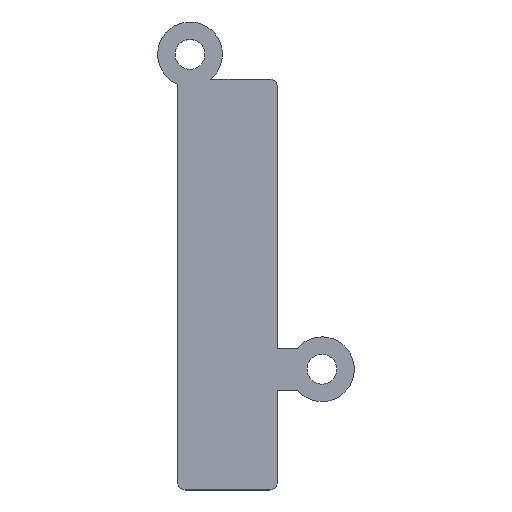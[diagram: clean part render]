
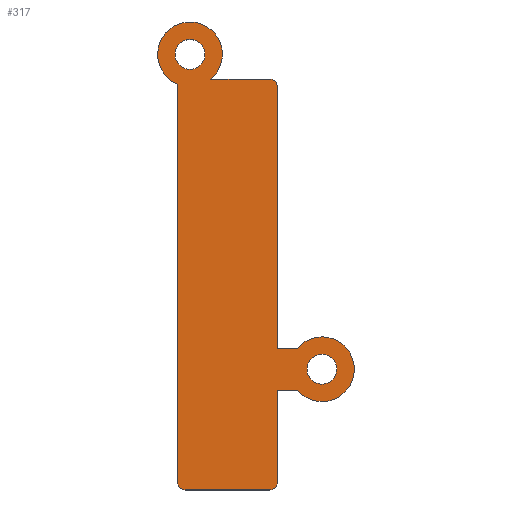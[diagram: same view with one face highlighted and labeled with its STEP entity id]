
A CAD part, top view. The second image highlights one B-rep face of the part: STEP entity #317.
In plain terms, the highlighted planar face has unit normal (0, 0, 1).
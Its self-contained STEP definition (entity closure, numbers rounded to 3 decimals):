
#17=FACE_BOUND('',#67,.T.);
#18=FACE_BOUND('',#68,.T.);
#20=CIRCLE('',#347,0.6);
#22=CIRCLE('',#350,0.6);
#29=CIRCLE('',#359,0.6);
#30=CIRCLE('',#360,2.6);
#31=CIRCLE('',#361,0.6);
#32=CIRCLE('',#362,2.6);
#33=CIRCLE('',#363,1.2);
#34=CIRCLE('',#364,1.2);
#47=FACE_OUTER_BOUND('',#66,.T.);
#66=EDGE_LOOP('',(#241,#242,#243,#244,#245,#246,#247,#248,#249,#250,#251,
#252,#253));
#67=EDGE_LOOP('',(#254));
#68=EDGE_LOOP('',(#255));
#82=LINE('',#480,#111);
#93=LINE('',#522,#122);
#94=LINE('',#526,#123);
#95=LINE('',#528,#124);
#96=LINE('',#532,#125);
#97=LINE('',#534,#126);
#98=LINE('',#538,#127);
#111=VECTOR('',#382,1.);
#122=VECTOR('',#421,1.);
#123=VECTOR('',#424,1.);
#124=VECTOR('',#425,1.);
#125=VECTOR('',#428,1.);
#126=VECTOR('',#429,1.);
#127=VECTOR('',#432,1.);
#140=VERTEX_POINT('',#477);
#141=VERTEX_POINT('',#479);
#144=VERTEX_POINT('',#487);
#146=VERTEX_POINT('',#493);
#158=VERTEX_POINT('',#521);
#159=VERTEX_POINT('',#523);
#160=VERTEX_POINT('',#525);
#161=VERTEX_POINT('',#527);
#162=VERTEX_POINT('',#529);
#163=VERTEX_POINT('',#531);
#164=VERTEX_POINT('',#533);
#165=VERTEX_POINT('',#535);
#166=VERTEX_POINT('',#537);
#167=VERTEX_POINT('',#540);
#168=VERTEX_POINT('',#542);
#170=EDGE_CURVE('',#140,#141,#82,.T.);
#175=EDGE_CURVE('',#140,#144,#20,.T.);
#177=EDGE_CURVE('',#146,#141,#22,.T.);
#191=EDGE_CURVE('',#144,#158,#93,.T.);
#192=EDGE_CURVE('',#158,#159,#29,.T.);
#193=EDGE_CURVE('',#159,#160,#94,.T.);
#194=EDGE_CURVE('',#160,#161,#95,.T.);
#195=EDGE_CURVE('',#161,#162,#30,.T.);
#196=EDGE_CURVE('',#163,#162,#96,.T.);
#197=EDGE_CURVE('',#163,#164,#97,.T.);
#198=EDGE_CURVE('',#164,#165,#31,.T.);
#199=EDGE_CURVE('',#166,#165,#98,.T.);
#200=EDGE_CURVE('',#166,#146,#32,.T.);
#201=EDGE_CURVE('',#167,#167,#33,.T.);
#202=EDGE_CURVE('',#168,#168,#34,.T.);
#241=ORIENTED_EDGE('',*,*,#170,.F.);
#242=ORIENTED_EDGE('',*,*,#175,.T.);
#243=ORIENTED_EDGE('',*,*,#191,.T.);
#244=ORIENTED_EDGE('',*,*,#192,.T.);
#245=ORIENTED_EDGE('',*,*,#193,.T.);
#246=ORIENTED_EDGE('',*,*,#194,.T.);
#247=ORIENTED_EDGE('',*,*,#195,.T.);
#248=ORIENTED_EDGE('',*,*,#196,.F.);
#249=ORIENTED_EDGE('',*,*,#197,.T.);
#250=ORIENTED_EDGE('',*,*,#198,.T.);
#251=ORIENTED_EDGE('',*,*,#199,.F.);
#252=ORIENTED_EDGE('',*,*,#200,.T.);
#253=ORIENTED_EDGE('',*,*,#177,.T.);
#254=ORIENTED_EDGE('',*,*,#201,.F.);
#255=ORIENTED_EDGE('',*,*,#202,.F.);
#306=PLANE('',#358);
#317=ADVANCED_FACE('',(#47,#17,#18),#306,.T.);
#347=AXIS2_PLACEMENT_3D('',#489,#390,#391);
#350=AXIS2_PLACEMENT_3D('',#494,#396,#397);
#358=AXIS2_PLACEMENT_3D('',#520,#419,#420);
#359=AXIS2_PLACEMENT_3D('',#524,#422,#423);
#360=AXIS2_PLACEMENT_3D('',#530,#426,#427);
#361=AXIS2_PLACEMENT_3D('',#536,#430,#431);
#362=AXIS2_PLACEMENT_3D('',#539,#433,#434);
#363=AXIS2_PLACEMENT_3D('',#541,#435,#436);
#364=AXIS2_PLACEMENT_3D('',#543,#437,#438);
#382=DIRECTION('',(0.,1.,0.));
#390=DIRECTION('center_axis',(0.,0.,1.));
#391=DIRECTION('ref_axis',(1.,0.,0.));
#396=DIRECTION('center_axis',(0.,0.,1.));
#397=DIRECTION('ref_axis',(1.,0.,0.));
#419=DIRECTION('center_axis',(0.,0.,1.));
#420=DIRECTION('ref_axis',(1.,0.,0.));
#421=DIRECTION('',(1.,0.,0.));
#422=DIRECTION('center_axis',(0.,0.,1.));
#423=DIRECTION('ref_axis',(1.,0.,0.));
#424=DIRECTION('',(0.,1.,0.));
#425=DIRECTION('',(1.,0.,0.));
#426=DIRECTION('center_axis',(0.,0.,1.));
#427=DIRECTION('ref_axis',(-0.757,-0.654,0.));
#428=DIRECTION('',(1.,0.,0.));
#429=DIRECTION('',(0.,1.,0.));
#430=DIRECTION('center_axis',(0.,0.,1.));
#431=DIRECTION('ref_axis',(1.,0.,0.));
#432=DIRECTION('',(1.,0.,0.));
#433=DIRECTION('center_axis',(0.,0.,1.));
#434=DIRECTION('ref_axis',(0.639,-0.769,0.));
#435=DIRECTION('center_axis',(0.,0.,1.));
#436=DIRECTION('ref_axis',(1.,0.,0.));
#437=DIRECTION('center_axis',(0.,0.,1.));
#438=DIRECTION('ref_axis',(1.,0.,0.));
#477=CARTESIAN_POINT('',(21.,32.6,-6.35));
#479=CARTESIAN_POINT('',(21.,64.4,-6.35));
#480=CARTESIAN_POINT('',(21.,48.5,-6.35));
#487=CARTESIAN_POINT('',(21.6,32.,-6.35));
#489=CARTESIAN_POINT('Origin',(21.6,32.6,-6.35));
#493=CARTESIAN_POINT('',(21.03,64.588,-6.35));
#494=CARTESIAN_POINT('Origin',(21.6,64.4,-6.35));
#520=CARTESIAN_POINT('Origin',(25.,48.5,-6.35));
#521=CARTESIAN_POINT('',(28.4,32.,-6.35));
#522=CARTESIAN_POINT('',(25.,32.,-6.35));
#523=CARTESIAN_POINT('',(29.,32.6,-6.35));
#524=CARTESIAN_POINT('Origin',(28.4,32.6,-6.35));
#525=CARTESIAN_POINT('',(29.,40.,-6.35));
#526=CARTESIAN_POINT('',(29.,48.5,-6.35));
#527=CARTESIAN_POINT('',(30.633,40.,-6.35));
#528=CARTESIAN_POINT('',(30.3,40.,-6.35));
#529=CARTESIAN_POINT('',(30.633,43.4,-6.35));
#530=CARTESIAN_POINT('Origin',(32.6,41.7,-6.35));
#531=CARTESIAN_POINT('',(29.,43.4,-6.35));
#532=CARTESIAN_POINT('',(30.3,43.4,-6.35));
#533=CARTESIAN_POINT('',(29.,64.4,-6.35));
#534=CARTESIAN_POINT('',(29.,48.5,-6.35));
#535=CARTESIAN_POINT('',(28.4,65.,-6.35));
#536=CARTESIAN_POINT('Origin',(28.4,64.4,-6.35));
#537=CARTESIAN_POINT('',(23.661,65.,-6.35));
#538=CARTESIAN_POINT('',(25.,65.,-6.35));
#539=CARTESIAN_POINT('Origin',(22.,67.,-6.35));
#540=CARTESIAN_POINT('',(31.4,41.7,-6.35));
#541=CARTESIAN_POINT('Origin',(32.6,41.7,-6.35));
#542=CARTESIAN_POINT('',(20.8,67.,-6.35));
#543=CARTESIAN_POINT('Origin',(22.,67.,-6.35));
